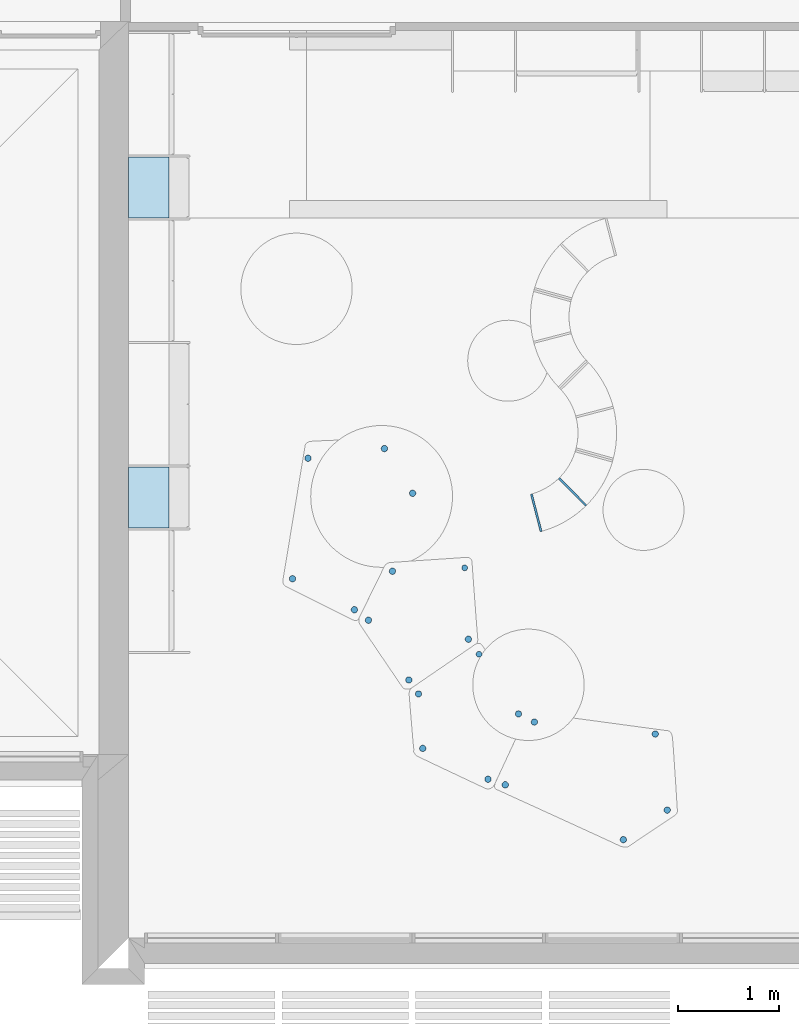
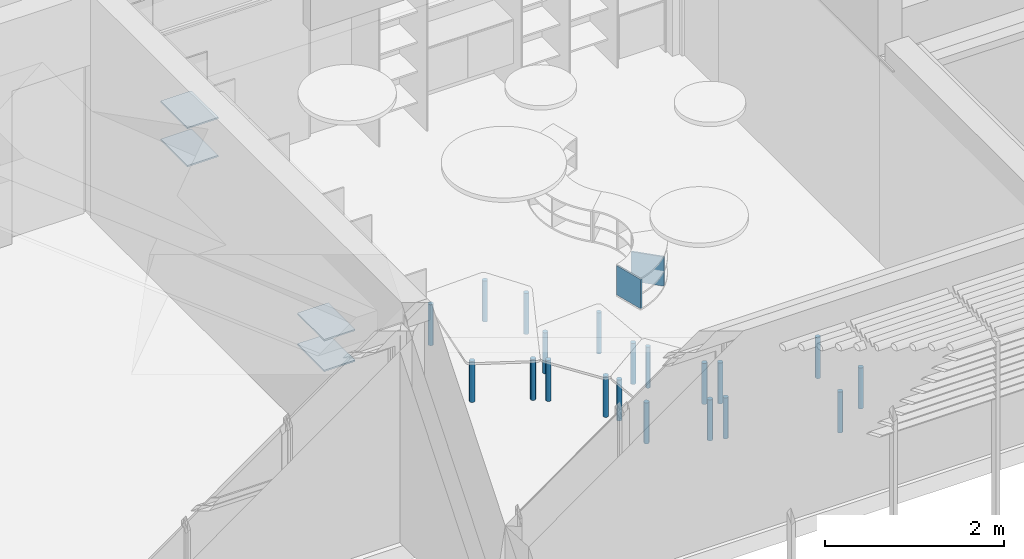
# One storey, part 15 of 64: 26 slabs.
"""IFC2X3 building model written with IfcOpenShell, lengths in metres."""

from ifc_helpers import new_model, entity, si_unit, converted_unit, derived_unit, direction, frame, frame_2d, origin, origin_2d_with_axis, place, context, subcontext, project, spatial, polyline, circle_curve, parameter, trimmed, segment, composite_curve, rectangle, circle, outline, extrude, material, layer, layer_set, layer_usage, type_object, element, save


model = new_model("IFC2X3")

# Units and contexts
model_context = context("Model", 3, precision=1e-05, world=origin(), true_north=direction((6.123031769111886e-17, 1.0)))
body_context = subcontext(model_context, "Body", "Model", "MODEL_VIEW")
ifc_project = project(units=[si_unit("LENGTHUNIT", "METRE"), si_unit("AREAUNIT", "SQUARE_METRE"), si_unit("VOLUMEUNIT", "CUBIC_METRE"), converted_unit("PLANEANGLEUNIT", "DEGREE", entity("IfcRatioMeasure", 0.017453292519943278), si_unit("PLANEANGLEUNIT", "RADIAN"), dimensions=[0, 0, 0, 0, 0, 0, 0]), si_unit("MASSUNIT", "GRAM", prefix="KILO"), derived_unit("MASSDENSITYUNIT", [(si_unit("MASSUNIT", "GRAM", prefix="KILO"), 1), (si_unit("LENGTHUNIT", "METRE"), -3)]), derived_unit("MOMENTOFINERTIAUNIT", [(si_unit("LENGTHUNIT", "METRE"), 4)]), si_unit("TIMEUNIT", "SECOND"), si_unit("FREQUENCYUNIT", "HERTZ"), si_unit("THERMODYNAMICTEMPERATUREUNIT", "DEGREE_CELSIUS"), derived_unit("THERMALTRANSMITTANCEUNIT", [(si_unit("MASSUNIT", "GRAM", prefix="KILO"), 1), (si_unit("THERMODYNAMICTEMPERATUREUNIT", "KELVIN"), -1), (si_unit("TIMEUNIT", "SECOND"), -3)]), derived_unit("THERMALCONDUCTANCEUNIT", [(si_unit("MASSUNIT", "GRAM", prefix="KILO"), 1), (si_unit("LENGTHUNIT", "METRE"), 1), (si_unit("THERMODYNAMICTEMPERATUREUNIT", "KELVIN"), -1), (si_unit("TIMEUNIT", "SECOND"), -3)]), derived_unit("VOLUMETRICFLOWRATEUNIT", [(si_unit("LENGTHUNIT", "METRE"), 3), (si_unit("TIMEUNIT", "SECOND"), -1)]), derived_unit("MASSFLOWRATEUNIT", [(si_unit("MASSUNIT", "GRAM", prefix="KILO"), 1), (si_unit("TIMEUNIT", "SECOND"), -1)]), derived_unit("ROTATIONALFREQUENCYUNIT", [(si_unit("TIMEUNIT", "SECOND"), -1)]), si_unit("ELECTRICCURRENTUNIT", "AMPERE"), si_unit("ELECTRICVOLTAGEUNIT", "VOLT"), si_unit("POWERUNIT", "WATT"), si_unit("FORCEUNIT", "NEWTON", prefix="KILO"), si_unit("ILLUMINANCEUNIT", "LUX"), si_unit("LUMINOUSFLUXUNIT", "LUMEN"), si_unit("LUMINOUSINTENSITYUNIT", "CANDELA"), derived_unit("USERDEFINED", [(si_unit("MASSUNIT", "GRAM", prefix="KILO"), -1), (si_unit("LENGTHUNIT", "METRE"), -2), (si_unit("TIMEUNIT", "SECOND"), 3), (si_unit("LUMINOUSFLUXUNIT", "LUMEN"), 1)]), derived_unit("USERDEFINED", [(si_unit("MASSUNIT", "GRAM", prefix="KILO"), 1), (si_unit("LENGTHUNIT", "METRE"), 3), (si_unit("TIMEUNIT", "SECOND"), -3), (si_unit("ELECTRICCURRENTUNIT", "AMPERE"), -2)]), derived_unit("USERDEFINED", [(si_unit("LENGTHUNIT", "METRE"), 2), (si_unit("TIMEUNIT", "SECOND"), -2)]), derived_unit("SOUNDPOWERUNIT", [(si_unit("MASSUNIT", "GRAM", prefix="KILO"), 1), (si_unit("LENGTHUNIT", "METRE"), 2), (si_unit("TIMEUNIT", "SECOND"), -3)]), derived_unit("SOUNDPRESSUREUNIT", [(si_unit("MASSUNIT", "GRAM", prefix="KILO"), 1), (si_unit("LENGTHUNIT", "METRE"), -1), (si_unit("TIMEUNIT", "SECOND"), -2)]), derived_unit("LINEARVELOCITYUNIT", [(si_unit("LENGTHUNIT", "METRE"), 1), (si_unit("TIMEUNIT", "SECOND"), -1)]), si_unit("PRESSUREUNIT", "PASCAL"), derived_unit("USERDEFINED", [(si_unit("LENGTHUNIT", "METRE"), -2), (si_unit("MASSUNIT", "GRAM", prefix="KILO"), 1), (si_unit("TIMEUNIT", "SECOND"), -2)]), derived_unit("LINEARFORCEUNIT", [(si_unit("MASSUNIT", "GRAM", prefix="KILO"), 1), (si_unit("LENGTHUNIT", "METRE"), 1), (si_unit("TIMEUNIT", "SECOND"), -2), (si_unit("LENGTHUNIT", "METRE"), -1)]), derived_unit("PLANARFORCEUNIT", [(si_unit("MASSUNIT", "GRAM", prefix="KILO"), 1), (si_unit("LENGTHUNIT", "METRE"), 1), (si_unit("TIMEUNIT", "SECOND"), -2), (si_unit("LENGTHUNIT", "METRE"), -2)]), derived_unit("SPECIFICHEATCAPACITYUNIT", [(si_unit("LENGTHUNIT", "METRE"), 2), (si_unit("TIMEUNIT", "SECOND"), -2), (si_unit("THERMODYNAMICTEMPERATUREUNIT", "KELVIN"), -1)]), derived_unit("VAPORPERMEABILITYUNIT", [(si_unit("TIMEUNIT", "SECOND"), 1), (si_unit("LENGTHUNIT", "METRE"), -1)]), derived_unit("DYNAMICVISCOSITYUNIT", [(si_unit("MASSUNIT", "GRAM", prefix="KILO"), 1), (si_unit("LENGTHUNIT", "METRE"), -1), (si_unit("TIMEUNIT", "SECOND"), -1)]), derived_unit("THERMALEXPANSIONCOEFFICIENTUNIT", [(si_unit("THERMODYNAMICTEMPERATUREUNIT", "KELVIN"), -1)])], contexts=[model_context])

# Site, building, storey
site_placement = place(None, origin())
site = spatial("IfcSite", under=ifc_project, at=site_placement, Name="Default", CompositionType="ELEMENT")
building_placement = place(site_placement, origin())
building = spatial("IfcBuilding", under=site, at=building_placement, CompositionType="ELEMENT")
storey_placement = place(building_placement, origin())
storey = spatial("IfcBuildingStorey", under=building, at=storey_placement, Name="REZ-DE-CHAUSSÉE", CompositionType="ELEMENT", Elevation=0.0)

# Slabs
ifc_material = material(Name="Bois - Pin granuleux horizontal")
ifc_layer_1 = layer(ifc_material, 0.02)
ifc_layer_set_1 = layer_set([ifc_layer_1], Name="Sol:Dalle-007:1415")
ifc_layer_usage_1 = layer_usage(ifc_layer_set_1, "AXIS3", "POSITIVE", 0.0)
slab_type_1 = type_object("IfcSlabType", Name="Sol:Dalle-007:1415", PredefinedType="FLOOR", material=ifc_layer_set_1)
slab_1_placement = place(storey_placement, origin())
element("IfcSlab", 1, at=slab_1_placement, inside=storey, type_object=slab_type_1, material=ifc_layer_usage_1, Name="Sol:Dalle-007:1415", ObjectType="Sol:Dalle-007:1415", PredefinedType="FLOOR", context=body_context, shape_type="SweptSolid", body=[
    extrude(rectangle(XDim=0.599999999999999, YDim=0.400000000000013, at=frame_2d((-5.551115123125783e-16, 0.0), x_axis=(1.0, 0.0))), frame((110.37075228, 8.81720948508, 1.1), z_axis=(0.0, 0.0, -1.0), x_axis=(0.0, 1.0, 0.0)), (0.0, 0.0, 1.0), 0.020000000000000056),
])
slab_2_placement = place(storey_placement, origin())
element("IfcSlab", 2, at=slab_2_placement, inside=storey, type_object=slab_type_1, material=ifc_layer_usage_1, Name="Sol:Dalle-007:1415", ObjectType="Sol:Dalle-007:1415", PredefinedType="FLOOR", context=body_context, shape_type="SweptSolid", body=[
    extrude(rectangle(XDim=0.5999999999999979, YDim=0.400000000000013, at=origin_2d_with_axis()), frame((110.37075228, 11.877209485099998, 2.14), z_axis=(0.0, 0.0, -1.0), x_axis=(0.0, 1.0, 0.0)), (0.0, 0.0, 1.0), 0.020000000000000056),
])
slab_3_placement = place(storey_placement, origin())
element("IfcSlab", 3, at=slab_3_placement, inside=storey, type_object=slab_type_1, material=ifc_layer_usage_1, Name="Sol:Dalle-007:1415", ObjectType="Sol:Dalle-007:1415", PredefinedType="FLOOR", context=body_context, shape_type="SweptSolid", body=[
    extrude(rectangle(XDim=0.599999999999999, YDim=0.400000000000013, at=frame_2d((-5.551115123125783e-16, 0.0), x_axis=(1.0, 0.0))), frame((110.37075228, 8.81720948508, 0.68), z_axis=(0.0, 0.0, -1.0), x_axis=(0.0, 1.0, 0.0)), (0.0, 0.0, 1.0), 0.020000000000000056),
])
slab_4_placement = place(storey_placement, origin())
element("IfcSlab", 4, at=slab_4_placement, inside=storey, type_object=slab_type_1, material=ifc_layer_usage_1, Name="Sol:Dalle-007:1415", ObjectType="Sol:Dalle-007:1415", PredefinedType="FLOOR", context=body_context, shape_type="SweptSolid", body=[
    extrude(rectangle(XDim=0.5999999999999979, YDim=0.400000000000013, at=origin_2d_with_axis()), frame((110.37075228, 11.877209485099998, 1.62), z_axis=(0.0, 0.0, -1.0), x_axis=(0.0, 1.0, 0.0)), (0.0, 0.0, 1.0), 0.020000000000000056),
])
ifc_layer_2 = layer(ifc_material, 0.4)
ifc_layer_set_2 = layer_set([ifc_layer_2], Name="Sol:Dalle-006:1420")
ifc_layer_usage_2 = layer_usage(ifc_layer_set_2, "AXIS3", "POSITIVE", 0.0)
slab_type_2 = type_object("IfcSlabType", Name="Sol:Dalle-006:1420", PredefinedType="FLOOR", material=ifc_layer_set_2)
slab_5_placement = place(storey_placement, origin())
element("IfcSlab", 5, at=slab_5_placement, inside=storey, type_object=slab_type_2, material=ifc_layer_usage_2, Name="Sol:Dalle-006:1420", ObjectType="Sol:Dalle-006:1420", PredefinedType="FLOOR", context=body_context, shape_type="SweptSolid", body=[
    extrude(rectangle(XDim=0.3810000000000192, YDim=0.019999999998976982, at=frame_2d((2.696454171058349e-14, 2.574520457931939e-13), x_axis=(1.0, 0.0))), frame((114.55613663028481, 8.872019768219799, 0.52), z_axis=(0.0, 0.0, -1.0), x_axis=(0.701387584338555, -0.7127800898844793, 0.0)), (0.0, 0.0, 1.0), 0.4),
])
slab_6_placement = place(storey_placement, origin())
element("IfcSlab", 6, at=slab_6_placement, inside=storey, type_object=slab_type_2, material=ifc_layer_usage_2, Name="Sol:Dalle-006:1420", ObjectType="Sol:Dalle-006:1420", PredefinedType="FLOOR", context=body_context, shape_type="SweptSolid", body=[
    extrude(outline(composite_curve([segment(trimmed(circle_curve(frame_2d((0.003039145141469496, -0.8174261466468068), x_axis=(-0.015950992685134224, 0.9998727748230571)), 0.627000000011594), [parameter(358.1720733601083)], [parameter(0.0)], True, "PARAMETER"), False, "CONTINUOUS"), segment(polyline([(0.013040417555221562, -0.19050591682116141), (0.006961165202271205, 0.1905662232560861)]), True, "CONTINUOUS"), segment(trimmed(circle_curve(frame_2d((0.0030391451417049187, -0.8174261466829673), x_axis=(0.0038908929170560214, 0.9999924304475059)), 1.0080000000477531), [parameter(0.0)], [parameter(1.1368956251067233)], True, "PARAMETER"), True, "CONTINUOUS"), segment(polyline([(-0.013039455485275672, 0.19044561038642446), (-0.006962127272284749, -0.19050591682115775)]), True, "CONTINUOUS")], self_intersect=False)), frame((114.19761615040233, 8.666029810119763, 0.5199999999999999), z_axis=(0.0, 0.0, -1.0), x_axis=(0.9638521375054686, 0.2664377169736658, 0.0)), (0.0, 0.0, 1.0), 0.4),
])
ifc_layer_3 = layer(ifc_material, 0.56)
ifc_layer_set_3 = layer_set([ifc_layer_3], Name="Sol:Dalle-008")
ifc_layer_usage_3 = layer_usage(ifc_layer_set_3, "AXIS3", "POSITIVE", 0.0)
slab_type_3 = type_object("IfcSlabType", Name="Sol:Dalle-008", PredefinedType="FLOOR", material=ifc_layer_set_3)
slab_7_placement = place(storey_placement, origin())
element("IfcSlab", 7, at=slab_7_placement, inside=storey, type_object=slab_type_3, material=ifc_layer_usage_3, Name="Sol:Dalle-008", ObjectType="Sol:Dalle-008", PredefinedType="FLOOR", context=body_context, shape_type="SweptSolid", body=[
    extrude(circle(Radius=0.03171083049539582, at=frame_2d((-2.9046481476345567e-15, 1.4547955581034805e-15), x_axis=(1.0, 0.0))), frame((111.94434726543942, 9.203817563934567, 0.56), z_axis=(0.0, 0.0, -1.0), x_axis=(0.4478221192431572, 0.8941226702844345, 0.0)), (0.0, 0.0, 1.0), 0.56),
])
slab_8_placement = place(storey_placement, origin())
element("IfcSlab", 8, at=slab_8_placement, inside=storey, type_object=slab_type_3, material=ifc_layer_usage_3, Name="Sol:Dalle-008", ObjectType="Sol:Dalle-008", PredefinedType="FLOOR", context=body_context, shape_type="SweptSolid", body=[
    extrude(circle(Radius=0.031710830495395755, at=frame_2d((-1.9364320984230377e-15, 9.698637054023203e-16), x_axis=(1.0, 0.0))), frame((112.69856853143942, 9.299545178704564, 0.56), z_axis=(0.0, 0.0, -1.0), x_axis=(0.4478221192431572, 0.8941226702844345, 0.0)), (0.0, 0.0, 1.0), 0.56),
])
slab_9_placement = place(storey_placement, origin())
element("IfcSlab", 9, at=slab_9_placement, inside=storey, type_object=slab_type_3, material=ifc_layer_usage_3, Name="Sol:Dalle-008", ObjectType="Sol:Dalle-008", PredefinedType="FLOOR", context=body_context, shape_type="SweptSolid", body=[
    extrude(circle(Radius=0.03171083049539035, at=frame_2d((7.758909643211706e-15, 1.5491456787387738e-14), x_axis=(1.0, 0.0))), frame((112.97712063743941, 8.858217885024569, 0.56), z_axis=(0.0, 0.0, -1.0), x_axis=(0.44782211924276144, 0.8941226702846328, 0.0)), (0.0, 0.0, 1.0), 0.5599999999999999),
])
slab_10_placement = place(storey_placement, origin())
element("IfcSlab", 10, at=slab_10_placement, inside=storey, type_object=slab_type_3, material=ifc_layer_usage_3, Name="Sol:Dalle-008", ObjectType="Sol:Dalle-008", PredefinedType="FLOOR", context=body_context, shape_type="SweptSolid", body=[
    extrude(circle(Radius=0.03171083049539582, at=frame_2d((-2.9046481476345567e-15, 1.4547955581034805e-15), x_axis=(1.0, 0.0))), frame((111.79083391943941, 8.014221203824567, 0.56), z_axis=(0.0, 0.0, -1.0), x_axis=(0.4478221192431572, 0.8941226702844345, 0.0)), (0.0, 0.0, 1.0), 0.56),
])
slab_11_placement = place(storey_placement, origin())
element("IfcSlab", 11, at=slab_11_placement, inside=storey, type_object=slab_type_3, material=ifc_layer_usage_3, Name="Sol:Dalle-008", ObjectType="Sol:Dalle-008", PredefinedType="FLOOR", context=body_context, shape_type="SweptSolid", body=[
    extrude(circle(Radius=0.03171083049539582, at=frame_2d((-2.9046481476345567e-15, 1.4547955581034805e-15), x_axis=(1.0, 0.0))), frame((112.40127423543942, 7.7084816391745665, 0.56), z_axis=(0.0, 0.0, -1.0), x_axis=(0.4478221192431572, 0.8941226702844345, 0.0)), (0.0, 0.0, 1.0), 0.56),
])
slab_12_placement = place(storey_placement, origin())
element("IfcSlab", 12, at=slab_12_placement, inside=storey, type_object=slab_type_3, material=ifc_layer_usage_3, Name="Sol:Dalle-008", ObjectType="Sol:Dalle-008", PredefinedType="FLOOR", context=body_context, shape_type="SweptSolid", body=[
    extrude(outline(composite_curve([segment(trimmed(circle_curve(frame_2d((-2.2347306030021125e-07, -2.2347309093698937e-07), x_axis=(1.0, 0.0)), 0.03171083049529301), [parameter(0.0)], [parameter(90.00000000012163)], True, "PARAMETER"), True, "CONTINUOUS"), segment(trimmed(circle_curve(frame_2d((2.234730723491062e-07, 2.2347307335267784e-07), x_axis=(-1.4094632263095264e-05, 1.0)), 0.03171038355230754), [parameter(0.0)], [parameter(89.99999999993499)], True, "PARAMETER"), True, "CONTINUOUS"), segment(trimmed(circle_curve(frame_2d((-2.2347306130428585e-07, -2.2347308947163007e-07), x_axis=(-1.0, 0.0)), 0.031709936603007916), [parameter(0.0)], [parameter(90.00000000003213)], True, "PARAMETER"), True, "CONTINUOUS"), segment(trimmed(circle_curve(frame_2d((2.2347306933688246e-07, 2.2347307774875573e-07), x_axis=(-1.4094629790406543e-05, -1.0)), 0.031710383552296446), [parameter(0.0)], [parameter(89.9999999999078)], True, "PARAMETER"), True, "CONTINUOUS")], self_intersect=False)), frame((112.77762096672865, 8.088890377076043, 0.56), z_axis=(0.0, 0.0, -1.0), x_axis=(0.8249239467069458, 0.5652437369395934, 0.0)), (0.0, 0.0, 1.0), 0.5599999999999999),
])
slab_13_placement = place(storey_placement, origin())
element("IfcSlab", 13, at=slab_13_placement, inside=storey, type_object=slab_type_3, material=ifc_layer_usage_3, Name="Sol:Dalle-008", ObjectType="Sol:Dalle-008", PredefinedType="FLOOR", context=body_context, shape_type="SweptSolid", body=[
    extrude(outline(composite_curve([segment(trimmed(circle_curve(frame_2d((-1.1173611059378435e-07, -1.3408413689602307e-07), x_axis=(1.0, 0.0)), 0.03171074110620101), [parameter(0.0)], [parameter(90.00000000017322)], True, "PARAMETER"), True, "CONTINUOUS"), segment(trimmed(circle_curve(frame_2d((1.1173679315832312e-07, -8.938892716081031e-08), x_axis=(-7.0472437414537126e-06, 1.0)), 0.031710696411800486), [parameter(0.0)], [parameter(89.99999999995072)], True, "PARAMETER"), True, "CONTINUOUS"), segment(trimmed(circle_curve(frame_2d((-3.35209909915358e-07, 8.93883010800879e-08), x_axis=(-1.0, -1.2685179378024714e-05)), 0.031710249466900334), [parameter(0.0)], [parameter(90.00000000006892)], True, "PARAMETER"), True, "CONTINUOUS"), segment(trimmed(circle_curve(frame_2d((3.352093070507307e-07, 1.340847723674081e-07), x_axis=(-8.456842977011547e-06, -1.0)), 0.03171029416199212), [parameter(0.0)], [parameter(90.00000000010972)], True, "PARAMETER"), True, "CONTINUOUS")], self_intersect=False)), frame((112.54064846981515, 7.605097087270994, 0.56), z_axis=(0.0, 0.0, -1.0), x_axis=(0.8249223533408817, 0.5652460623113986, 0.0)), (0.0, 0.0, 1.0), 0.56),
])
slab_14_placement = place(storey_placement, origin())
element("IfcSlab", 14, at=slab_14_placement, inside=storey, type_object=slab_type_3, material=ifc_layer_usage_3, Name="Sol:Dalle-008", ObjectType="Sol:Dalle-008", PredefinedType="FLOOR", context=body_context, shape_type="SweptSolid", body=[
    extrude(outline(composite_curve([segment(trimmed(circle_curve(frame_2d((-2.98010296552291e-06, -0.009607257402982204), x_axis=(1.0, 0.0)), 0.028830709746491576), [parameter(0.0)], [parameter(90.00000000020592)], True, "PARAMETER"), True, "CONTINUOUS"), segment(trimmed(circle_curve(frame_2d((5.958820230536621e-06, -0.0096072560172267), x_axis=(-0.0003100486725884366, 0.9999999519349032)), 0.02883070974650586), [parameter(0.0)], [parameter(90.00000000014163)], True, "PARAMETER"), True, "CONTINUOUS"), segment(trimmed(circle_curve(frame_2d((1.4900515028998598e-06, -0.009611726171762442), x_axis=(-0.9999999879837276, -0.0001550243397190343)), 0.02882623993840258), [parameter(0.0)], [parameter(179.9999999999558)], True, "PARAMETER"), True, "CONTINUOUS")], self_intersect=False)), frame((113.48566901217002, 8.130034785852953, 0.56), z_axis=(0.0, 0.0, -1.0), x_axis=(-0.8248363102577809, -0.5653716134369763, 0.0)), (0.0, 0.0, 1.0), 0.56),
])
slab_15_placement = place(storey_placement, origin())
element("IfcSlab", 15, at=slab_15_placement, inside=storey, type_object=slab_type_3, material=ifc_layer_usage_3, Name="Sol:Dalle-008", ObjectType="Sol:Dalle-008", PredefinedType="FLOOR", context=body_context, shape_type="SweptSolid", body=[
    extrude(outline(composite_curve([segment(trimmed(circle_curve(frame_2d((2.9795992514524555e-07, -0.010570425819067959), x_axis=(1.0, 0.0)), 0.03171038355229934), [parameter(0.0)], [parameter(90.00000000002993)], True, "PARAMETER"), True, "CONTINUOUS"), segment(trimmed(circle_curve(frame_2d((-5.959324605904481e-07, -0.010570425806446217), x_axis=(2.8189263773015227e-05, 1.0)), 0.03171038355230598), [parameter(0.0)], [parameter(90.00000000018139)], True, "PARAMETER"), True, "CONTINUOUS"), segment(trimmed(circle_curve(frame_2d((-1.4897995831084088e-07, -0.010569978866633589), x_axis=(-1.0, 1.409463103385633e-05)), 0.03171083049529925), [parameter(0.0)], [parameter(180.00000000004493)], True, "PARAMETER"), True, "CONTINUOUS")], self_intersect=False)), frame((113.52117138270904, 7.425966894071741, 0.5599999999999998), z_axis=(0.0, 0.0, -1.0), x_axis=(-0.8249319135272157, -0.5652321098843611, 0.0)), (0.0, 0.0, 1.0), 0.5599999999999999),
])
slab_16_placement = place(storey_placement, origin())
element("IfcSlab", 16, at=slab_16_placement, inside=storey, type_object=slab_type_3, material=ifc_layer_usage_3, Name="Sol:Dalle-008", ObjectType="Sol:Dalle-008", PredefinedType="FLOOR", context=body_context, shape_type="SweptSolid", body=[
    extrude(outline(composite_curve([segment(trimmed(circle_curve(frame_2d((-1.3408344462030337e-07, -8.938979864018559e-08), x_axis=(1.0, 0.0)), 0.031710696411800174), [parameter(0.0)], [parameter(90.00000000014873)], True, "PARAMETER"), True, "CONTINUOUS"), segment(trimmed(circle_curve(frame_2d((1.3408419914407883e-07, -8.938867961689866e-08), x_axis=(-8.45669585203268e-06, 1.0)), 0.03171069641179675), [parameter(0.0)], [parameter(89.99999999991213)], True, "PARAMETER"), True, "CONTINUOUS"), segment(trimmed(circle_curve(frame_2d((-3.128626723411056e-07, 8.938797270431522e-08), x_axis=(-1.0, -1.4094632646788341e-05)), 0.03171024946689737), [parameter(0.0)], [parameter(89.99999999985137)], True, "PARAMETER"), True, "CONTINUOUS"), segment(trimmed(circle_curve(frame_2d((3.1286197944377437e-07, 8.939054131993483e-08), x_axis=(-5.6379378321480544e-06, -1.0)), 0.03171024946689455), [parameter(0.0)], [parameter(90.00000000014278)], True, "PARAMETER"), True, "CONTINUOUS")], self_intersect=False)), frame((112.94035192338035, 7.015171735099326, 0.56), z_axis=(0.0, 0.0, -1.0), x_axis=(0.824921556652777, 0.5652472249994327, 0.0)), (0.0, 0.0, 1.0), 0.56),
])
slab_17_placement = place(storey_placement, origin())
element("IfcSlab", 17, at=slab_17_placement, inside=storey, type_object=slab_type_3, material=ifc_layer_usage_3, Name="Sol:Dalle-008", ObjectType="Sol:Dalle-008", PredefinedType="FLOOR", context=body_context, shape_type="SweptSolid", body=[
    extrude(outline(composite_curve([segment(trimmed(circle_curve(frame_2d((-2.2347303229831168e-07, -2.2347304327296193e-07), x_axis=(1.0, 0.0)), 0.031710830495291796), [parameter(0.0)], [parameter(90.00000000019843)], True, "PARAMETER"), True, "CONTINUOUS"), segment(trimmed(circle_curve(frame_2d((2.2347304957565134e-07, 2.2347305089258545e-07), x_axis=(-1.4094632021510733e-05, 1.0)), 0.03171038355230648), [parameter(0.0)], [parameter(89.99999999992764)], True, "PARAMETER"), True, "CONTINUOUS"), segment(trimmed(circle_curve(frame_2d((-2.2347307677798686e-07, -2.2347313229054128e-07), x_axis=(-1.0, 0.0)), 0.031709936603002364), [parameter(0.0)], [parameter(90.00000000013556)], True, "PARAMETER"), True, "CONTINUOUS"), segment(trimmed(circle_curve(frame_2d((2.2347306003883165e-07, 2.2347304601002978e-07), x_axis=(-1.4094629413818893e-05, -1.0)), 0.031710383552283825), [parameter(0.0)], [parameter(90.00000000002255)], True, "PARAMETER"), True, "CONTINUOUS")], self_intersect=False)), frame((113.03506040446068, 6.8769222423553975, 0.56), z_axis=(0.0, 0.0, -1.0), x_axis=(0.4228668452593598, 0.9061918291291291, 0.0)), (0.0, 0.0, 1.0), 0.56),
])
slab_18_placement = place(storey_placement, origin())
element("IfcSlab", 18, at=slab_18_placement, inside=storey, type_object=slab_type_3, material=ifc_layer_usage_3, Name="Sol:Dalle-008", ObjectType="Sol:Dalle-008", PredefinedType="FLOOR", context=body_context, shape_type="SweptSolid", body=[
    extrude(outline(composite_curve([segment(trimmed(circle_curve(frame_2d((-2.980102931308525e-06, -0.009607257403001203), x_axis=(1.0, 0.0)), 0.028830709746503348), [parameter(0.0)], [parameter(90.00000000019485)], True, "PARAMETER"), True, "CONTINUOUS"), segment(trimmed(circle_curve(frame_2d((5.958820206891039e-06, -0.009607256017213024), x_axis=(-0.0003100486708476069, 0.9999999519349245)), 0.028830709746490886), [parameter(0.0)], [parameter(90.0000000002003)], True, "PARAMETER"), True, "CONTINUOUS"), segment(trimmed(circle_curve(frame_2d((1.4900515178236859e-06, -0.009611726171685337), x_axis=(-0.9999999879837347, -0.00015502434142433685)), 0.028826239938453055), [parameter(0.0)], [parameter(179.99999999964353)], True, "PARAMETER"), True, "CONTINUOUS")], self_intersect=False)), frame((113.62380415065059, 7.272403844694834, 0.56), z_axis=(0.0, 0.0, -1.0), x_axis=(-0.4227263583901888, -0.9062573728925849, 0.0)), (0.0, 0.0, 1.0), 0.56),
])
slab_19_placement = place(storey_placement, origin())
element("IfcSlab", 19, at=slab_19_placement, inside=storey, type_object=slab_type_3, material=ifc_layer_usage_3, Name="Sol:Dalle-008", ObjectType="Sol:Dalle-008", PredefinedType="FLOOR", context=body_context, shape_type="SweptSolid", body=[
    extrude(outline(composite_curve([segment(trimmed(circle_curve(frame_2d((2.979599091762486e-07, -0.010570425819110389), x_axis=(1.0, 0.0)), 0.03171038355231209), [parameter(0.0)], [parameter(89.99999999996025)], True, "PARAMETER"), True, "CONTINUOUS"), segment(trimmed(circle_curve(frame_2d((-5.959323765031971e-07, -0.010570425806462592), x_axis=(2.8189261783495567e-05, 1.0)), 0.03171038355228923), [parameter(0.0)], [parameter(89.99999999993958)], True, "PARAMETER"), True, "CONTINUOUS"), segment(trimmed(circle_curve(frame_2d((-1.4897998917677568e-07, -0.010569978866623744), x_axis=(-1.0, 1.4094632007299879e-05)), 0.03171083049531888), [parameter(0.0)], [parameter(179.99999999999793)], True, "PARAMETER"), True, "CONTINUOUS")], self_intersect=False)), frame((114.0124036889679, 6.6842181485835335, 0.56), z_axis=(0.0, 0.0, -1.0), x_axis=(-0.42287961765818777, -0.9061858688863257, 0.0)), (0.0, 0.0, 1.0), 0.56),
])
slab_20_placement = place(storey_placement, origin())
element("IfcSlab", 20, at=slab_20_placement, inside=storey, type_object=slab_type_3, material=ifc_layer_usage_3, Name="Sol:Dalle-008", ObjectType="Sol:Dalle-008", PredefinedType="FLOOR", context=body_context, shape_type="SweptSolid", body=[
    extrude(outline(composite_curve([segment(trimmed(circle_curve(frame_2d((-1.1173613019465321e-07, -1.340841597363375e-07), x_axis=(1.0, 0.0)), 0.03171074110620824), [parameter(0.0)], [parameter(89.99999999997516)], True, "PARAMETER"), True, "CONTINUOUS"), segment(trimmed(circle_curve(frame_2d((1.1173680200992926e-07, -8.938895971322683e-08), x_axis=(-7.0472408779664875e-06, 1.0)), 0.03171069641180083), [parameter(0.0)], [parameter(90.0000000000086)], True, "PARAMETER"), True, "CONTINUOUS"), segment(trimmed(circle_curve(frame_2d((-3.3520989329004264e-07, 8.938830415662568e-08), x_axis=(-1.0, -1.268517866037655e-05)), 0.031710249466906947), [parameter(0.0)], [parameter(89.99999999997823)], True, "PARAMETER"), True, "CONTINUOUS"), segment(trimmed(circle_curve(frame_2d((3.3520925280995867e-07, 1.3408483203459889e-07), x_axis=(-8.456843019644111e-06, -1.0)), 0.03171029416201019), [parameter(0.0)], [parameter(89.99999999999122)], True, "PARAMETER"), True, "CONTINUOUS")], self_intersect=False)), frame((113.07703157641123, 6.33984651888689, 0.5599999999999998), z_axis=(0.0, 0.0, -1.0), x_axis=(0.42286429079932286, 0.9061930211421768, 0.0)), (0.0, 0.0, 1.0), 0.56),
])
slab_21_placement = place(storey_placement, origin())
element("IfcSlab", 21, at=slab_21_placement, inside=storey, type_object=slab_type_3, material=ifc_layer_usage_3, Name="Sol:Dalle-008", ObjectType="Sol:Dalle-008", PredefinedType="FLOOR", context=body_context, shape_type="SweptSolid", body=[
    extrude(outline(composite_curve([segment(trimmed(circle_curve(frame_2d((-1.340834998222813e-07, -8.938980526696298e-08), x_axis=(1.0, 0.0)), 0.031710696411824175), [parameter(0.0)], [parameter(89.99999999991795)], True, "PARAMETER"), True, "CONTINUOUS"), segment(trimmed(circle_curve(frame_2d((1.340842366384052e-07, -8.938867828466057e-08), x_axis=(-8.456695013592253e-06, 1.0)), 0.031710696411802), [parameter(0.0)], [parameter(90.00000000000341)], True, "PARAMETER"), True, "CONTINUOUS"), segment(trimmed(circle_curve(frame_2d((-3.1286274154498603e-07, 8.938792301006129e-08), x_axis=(-1.0, -1.4094631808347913e-05)), 0.03171024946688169), [parameter(0.0)], [parameter(90.0000000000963)], True, "PARAMETER"), True, "CONTINUOUS"), segment(trimmed(circle_curve(frame_2d((3.128619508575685e-07, 8.939055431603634e-08), x_axis=(-5.637936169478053e-06, -1.0)), 0.03171024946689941), [parameter(0.0)], [parameter(89.99999999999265)], True, "PARAMETER"), True, "CONTINUOUS")], self_intersect=False)), frame((113.72118390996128, 6.035145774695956, 0.5599999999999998), z_axis=(0.0, 0.0, -1.0), x_axis=(0.42286301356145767, 0.906193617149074, 0.0)), (0.0, 0.0, 1.0), 0.56),
])
slab_22_placement = place(storey_placement, origin())
element("IfcSlab", 22, at=slab_22_placement, inside=storey, type_object=slab_type_3, material=ifc_layer_usage_3, Name="Sol:Dalle-008", ObjectType="Sol:Dalle-008", PredefinedType="FLOOR", context=body_context, shape_type="SweptSolid", body=[
    extrude(outline(composite_curve([segment(trimmed(circle_curve(frame_2d((-0.010570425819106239, 2.979598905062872e-07), x_axis=(1.0, 0.0)), 0.03171038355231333), [parameter(0.0)], [parameter(89.9999999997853)], True, "PARAMETER"), True, "CONTINUOUS"), segment(trimmed(circle_curve(frame_2d((-0.01056997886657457, -1.4897993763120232e-07), x_axis=(-1.4094629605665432e-05, 1.0)), 0.031710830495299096), [parameter(0.0)], [parameter(179.9999999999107)], True, "PARAMETER"), True, "CONTINUOUS"), segment(trimmed(circle_curve(frame_2d((-0.01057042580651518, -5.959323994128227e-07), x_axis=(2.8189261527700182e-05, -1.0)), 0.0317103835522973), [parameter(0.0)], [parameter(89.99999999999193)], True, "PARAMETER"), True, "CONTINUOUS")], self_intersect=False)), frame((113.8959334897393, 5.989934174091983, 0.56), z_axis=(0.0, 0.0, -1.0), x_axis=(0.4213814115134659, 0.9068835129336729, 0.0)), (0.0, 0.0, 1.0), 0.56),
])
slab_23_placement = place(storey_placement, origin())
element("IfcSlab", 23, at=slab_23_placement, inside=storey, type_object=slab_type_3, material=ifc_layer_usage_3, Name="Sol:Dalle-008", ObjectType="Sol:Dalle-008", PredefinedType="FLOOR", context=body_context, shape_type="SweptSolid", body=[
    extrude(outline(composite_curve([segment(trimmed(circle_curve(frame_2d((2.979599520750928e-07, -0.010570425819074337), x_axis=(1.0, 0.0)), 0.031710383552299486), [parameter(0.0)], [parameter(90.00000000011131)], True, "PARAMETER"), True, "CONTINUOUS"), segment(trimmed(circle_curve(frame_2d((-5.959324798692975e-07, -0.010570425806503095), x_axis=(2.8189264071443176e-05, 1.0)), 0.031710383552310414), [parameter(0.0)], [parameter(90.00000000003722)], True, "PARAMETER"), True, "CONTINUOUS"), segment(trimmed(circle_curve(frame_2d((-1.4897996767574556e-07, -0.0105699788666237), x_axis=(-1.0, 1.409463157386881e-05)), 0.03171083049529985), [parameter(0.0)], [parameter(180.0000000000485)], True, "PARAMETER"), True, "CONTINUOUS")], self_intersect=False)), frame((114.17472178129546, 6.589911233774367, 0.56), z_axis=(0.0, 0.0, -1.0), x_axis=(0.906871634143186, -0.4214069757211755, 0.0)), (0.0, 0.0, 1.0), 0.56),
])
slab_24_placement = place(storey_placement, origin())
element("IfcSlab", 24, at=slab_24_placement, inside=storey, type_object=slab_type_3, material=ifc_layer_usage_3, Name="Sol:Dalle-008", ObjectType="Sol:Dalle-008", PredefinedType="FLOOR", context=body_context, shape_type="SweptSolid", body=[
    extrude(circle(Radius=0.031710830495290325, at=frame_2d((5.8921674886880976e-15, -2.73788352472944e-15), x_axis=(1.0, 0.0))), frame((115.37276442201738, 6.480954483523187, 0.56), z_axis=(0.0, 0.0, -1.0), x_axis=(0.4213941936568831, 0.906877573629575, 0.0)), (0.0, 0.0, 1.0), 0.56),
])
slab_25_placement = place(storey_placement, origin())
element("IfcSlab", 25, at=slab_25_placement, inside=storey, type_object=slab_type_3, material=ifc_layer_usage_3, Name="Sol:Dalle-008", ObjectType="Sol:Dalle-008", PredefinedType="FLOOR", context=body_context, shape_type="SweptSolid", body=[
    extrude(circle(Radius=0.03171083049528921, at=frame_2d((8.283050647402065e-15, 1.5256132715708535e-14), x_axis=(1.0, 0.0))), frame((115.49058098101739, 5.729866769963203, 0.56), z_axis=(0.0, 0.0, -1.0), x_axis=(0.42139419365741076, 0.9068775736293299, 0.0)), (0.0, 0.0, 1.0), 0.56),
])
slab_26_placement = place(storey_placement, origin())
element("IfcSlab", 26, at=slab_26_placement, inside=storey, type_object=slab_type_3, material=ifc_layer_usage_3, Name="Sol:Dalle-008", ObjectType="Sol:Dalle-008", PredefinedType="FLOOR", context=body_context, shape_type="SweptSolid", body=[
    extrude(outline(composite_curve([segment(trimmed(circle_curve(frame_2d((-0.0105704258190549, 2.9795992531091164e-07), x_axis=(1.0, 0.0)), 0.0317103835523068), [parameter(0.0)], [parameter(89.9999999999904)], True, "PARAMETER"), True, "CONTINUOUS"), segment(trimmed(circle_curve(frame_2d((-0.010569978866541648, -1.489799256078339e-07), x_axis=(-1.409463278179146e-05, 1.0)), 0.031710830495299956), [parameter(0.0)], [parameter(179.99999999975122)], True, "PARAMETER"), True, "CONTINUOUS"), segment(trimmed(circle_curve(frame_2d((-0.010570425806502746, -5.959323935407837e-07), x_axis=(2.818926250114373e-05, -1.0)), 0.03171038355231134), [parameter(0.0)], [parameter(89.99999999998)], True, "PARAMETER"), True, "CONTINUOUS")], self_intersect=False)), frame((115.06207103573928, 5.448070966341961, 0.56), z_axis=(0.0, 0.0, -1.0), x_axis=(0.4213814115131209, 0.9068835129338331, 0.0)), (0.0, 0.0, 1.0), 0.56),
])

save(model, "model.ifc")
